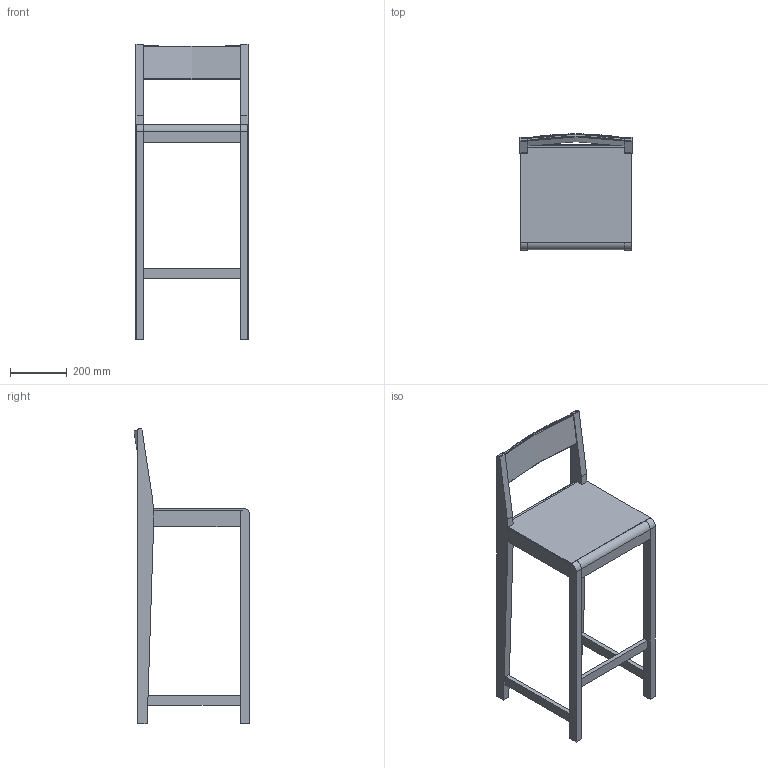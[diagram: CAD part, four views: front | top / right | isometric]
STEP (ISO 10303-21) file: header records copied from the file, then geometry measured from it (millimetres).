
FILE_DESCRIPTION(/* description */ (''),/* implementation_level */ '2;1');
FILE_NAME(/* name */ 'FRAMA_01-BarChair-H76-3D',/* time_stamp */ '2025-11-05T16:25:11+01:00',/* author */ (''),/* organization */ (''),/* preprocessor_version */ 'ST-DEVELOPER v16.5',/* originating_system */ 'Rhino 7.38',/* authorisation */ '');
FILE_SCHEMA (('CONFIG_CONTROL_DESIGN'));
Length unit declared in the file: millimetre
Products named in the file (1): Document
Bounding box: 395.74 x 409.22 x 1043.25 mm (x, y, z)
Volume: 7682237.1 mm3; surface area: 1189357.9 mm2
Topology: 13 solids, 13 shells, 120 faces, 282 edges, 188 vertices
Faces by surface type: plane 90, cylinder 22, bspline 8
Entity records: 3715 total; most frequent: CARTESIAN_POINT 1718, ORIENTED_EDGE 564, EDGE_CURVE 282, VERTEX_POINT 188, B_SPLINE_CURVE_WITH_KNOTS 151, ADVANCED_FACE 120, FACE_OUTER_BOUND 120, EDGE_LOOP 120
